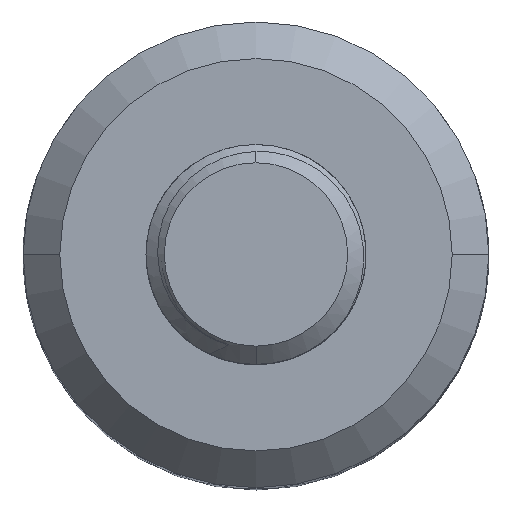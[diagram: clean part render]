
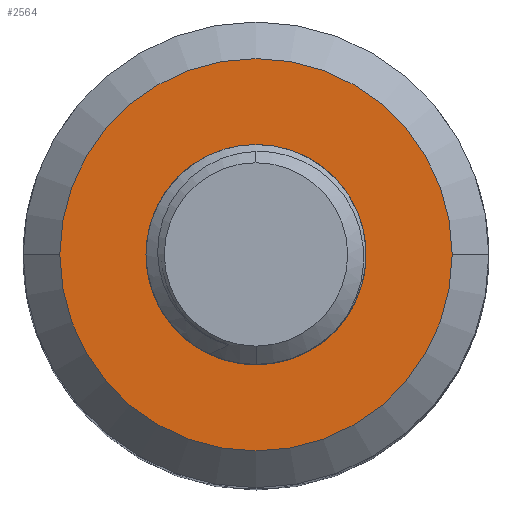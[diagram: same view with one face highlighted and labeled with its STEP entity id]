
A CAD part, top view. The second image highlights one B-rep face of the part: STEP entity #2564.
In plain terms, the highlighted planar face has unit normal (0, 0, 1).
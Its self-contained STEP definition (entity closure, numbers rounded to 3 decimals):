
#253=CARTESIAN_POINT('',(0.,0.,38.1));
#254=DIRECTION('',(0.,0.,1.));
#255=DIRECTION('',(-1.,0.,0.));
#256=AXIS2_PLACEMENT_3D('',#253,#254,#255);
#258=CARTESIAN_POINT('',(0.,0.,38.1));
#259=DIRECTION('',(0.,0.,1.));
#260=DIRECTION('',(1.,0.,0.));
#261=AXIS2_PLACEMENT_3D('',#258,#259,#260);
#263=CARTESIAN_POINT('',(0.,0.,38.1));
#264=DIRECTION('',(0.,0.,-1.));
#265=DIRECTION('',(0.,1.,0.));
#266=AXIS2_PLACEMENT_3D('',#263,#264,#265);
#268=CARTESIAN_POINT('',(0.,0.,38.1));
#269=DIRECTION('',(0.,0.,-1.));
#270=DIRECTION('',(0.,-1.,0.));
#271=AXIS2_PLACEMENT_3D('',#268,#269,#270);
#2197=CARTESIAN_POINT('',(-5.35,0.,38.1));
#2198=CARTESIAN_POINT('',(5.35,0.,38.1));
#2199=VERTEX_POINT('',#2197);
#2200=VERTEX_POINT('',#2198);
#2241=CARTESIAN_POINT('',(0.,2.,38.1));
#2242=CARTESIAN_POINT('',(0.,-2.,38.1));
#2243=VERTEX_POINT('',#2241);
#2244=VERTEX_POINT('',#2242);
#2548=CARTESIAN_POINT('',(0.,0.,38.1));
#2549=DIRECTION('',(0.,0.,1.));
#2550=DIRECTION('',(1.,0.,0.));
#2551=AXIS2_PLACEMENT_3D('',#2548,#2549,#2550);
#2552=PLANE('',#2551);
#2553=ORIENTED_EDGE('',*,*,#2538,.F.);
#2555=ORIENTED_EDGE('',*,*,#2554,.F.);
#2556=EDGE_LOOP('',(#2553,#2555));
#2557=FACE_OUTER_BOUND('',#2556,.F.);
#2559=ORIENTED_EDGE('',*,*,#2558,.F.);
#2561=ORIENTED_EDGE('',*,*,#2560,.F.);
#2562=EDGE_LOOP('',(#2559,#2561));
#2563=FACE_BOUND('',#2562,.F.);
#2564=ADVANCED_FACE('',(#2557,#2563),#2552,.T.);
#257=CIRCLE('',#256,5.35);
#262=CIRCLE('',#261,5.35);
#267=CIRCLE('',#266,2.);
#272=CIRCLE('',#271,2.);
#2538=EDGE_CURVE('',#2199,#2200,#257,.T.);
#2554=EDGE_CURVE('',#2200,#2199,#262,.T.);
#2558=EDGE_CURVE('',#2243,#2244,#267,.T.);
#2560=EDGE_CURVE('',#2244,#2243,#272,.T.);
